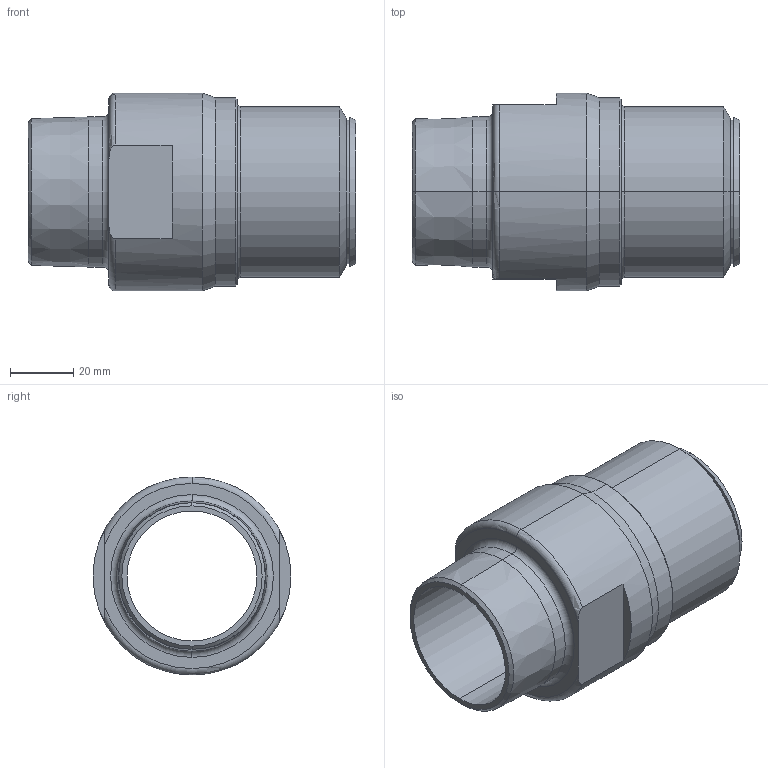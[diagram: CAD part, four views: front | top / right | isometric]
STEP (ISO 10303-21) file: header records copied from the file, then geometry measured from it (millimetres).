
FILE_DESCRIPTION (( 'STEP AP203' ), '1' );
FILE_NAME ('KP_C15-54M.step', '2011-08-08T12:04:02', ( '' ), ( '' ), 'SwSTEP 2.0', 'SolidWorks 2011', '' );
FILE_SCHEMA (( 'CONFIG_CONTROL_DESIGN' ));
Length unit declared in the file: millimetre
Products named in the file (1): KP_C15-54M
Bounding box: 103.5 x 62.5 x 62.5 mm (x, y, z)
Volume: 109136.2 mm3; surface area: 33712.9 mm2
Topology: 1 solids, 1 shells, 43 faces, 92 edges, 55 vertices
Faces by surface type: cone 14, cylinder 12, plane 10, torus 7
Entity records: 1313 total; most frequent: CARTESIAN_POINT 263, DIRECTION 230, ORIENTED_EDGE 184, AXIS2_PLACEMENT_3D 98, EDGE_CURVE 92, VERTEX_POINT 55, CIRCLE 54, EDGE_LOOP 49
